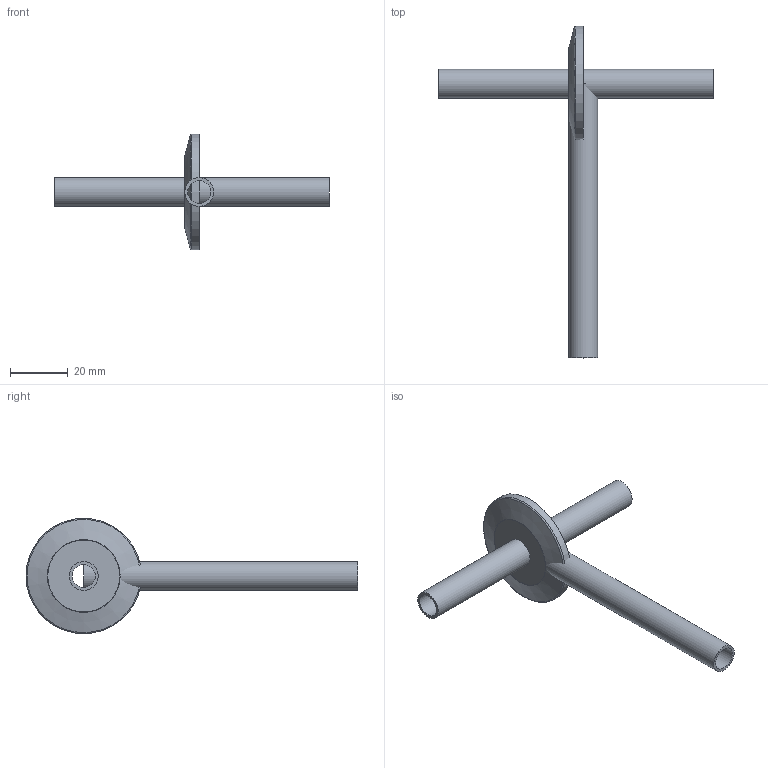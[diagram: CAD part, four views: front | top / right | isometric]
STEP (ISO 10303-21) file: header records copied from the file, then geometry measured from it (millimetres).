
FILE_DESCRIPTION( ( 'Unknown' ), '1' );
FILE_NAME( 'X:/Daten ( aktueller Bestand )/Projekte und Zeichnungen/Solid Edge/8 Adapter KF/KF Flüssigkeitsdurchführung,einfach/1864-10.stp', 'Unknown', ( 'Unknown' ), ( 'Unknown' ), 'XStep 1.0', 'Unknown', ' ' );
FILE_SCHEMA( ( 'automotive_design' ) );
Length unit declared in the file: millimetre
Products named in the file (3): Assem1; 1862-10.2; 1864-10.1
Bounding box: 95 x 115 x 40 mm (x, y, z)
Volume: 14295.8 mm3; surface area: 17299.6 mm2
Topology: 4 solids, 4 shells, 34 faces, 64 edges, 42 vertices
Faces by surface type: cylinder 12, plane 12, cone 6, torus 4
Full cylindrical faces by diameter (mm): 8 x2, 10 x4, 19.7 x2, 26.2 x2, 40 x2
Entity records: 508 total; most frequent: DIRECTION 74, CARTESIAN_POINT 54, AXIS2_PLACEMENT_3D 37, EDGE_LOOP 34, ORIENTED_EDGE 34, FACE_OUTER_BOUND 25, ADVANCED_FACE 17, EDGE_CURVE 17
